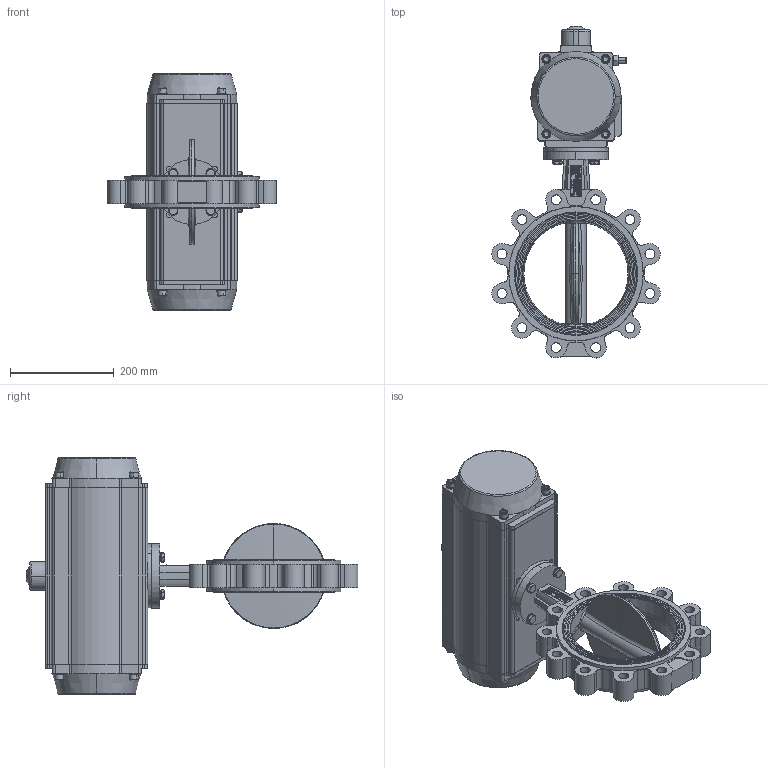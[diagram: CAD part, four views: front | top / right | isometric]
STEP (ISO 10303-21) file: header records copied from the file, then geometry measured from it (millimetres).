
FILE_DESCRIPTION (( 'STEP AP214' ), '1' );
FILE_NAME ('VPG464X-N07XX0200.step', '2022-06-07T06:27:31', ( '' ), ( '' ), 'SwSTEP 2.0', 'SolidWorks 2020', '' );
FILE_SCHEMA (( 'AUTOMOTIVE_DESIGN' ));
Length unit declared in the file: millimetre
Products named in the file (1): VPG464X-N07XX0200
Bounding box: 324.87 x 640.12 x 456 mm (x, y, z)
Surface area: 771872.1 mm2 (no closed solid volume)
Topology: 0 solids, 70 shells, 744 faces, 4180 edges, 3510 vertices
Faces by surface type: plane 300, cylinder 273, cone 87, bspline 80, torus 4
Entity records: 65695 total; most frequent: CARTESIAN_POINT 27251, ORIENTED_EDGE 5767, DIRECTION 5293, EDGE_CURVE 4176, VERTEX_POINT 3510, VECTOR 2161, LINE 2161, AXIS2_PLACEMENT_3D 1566
